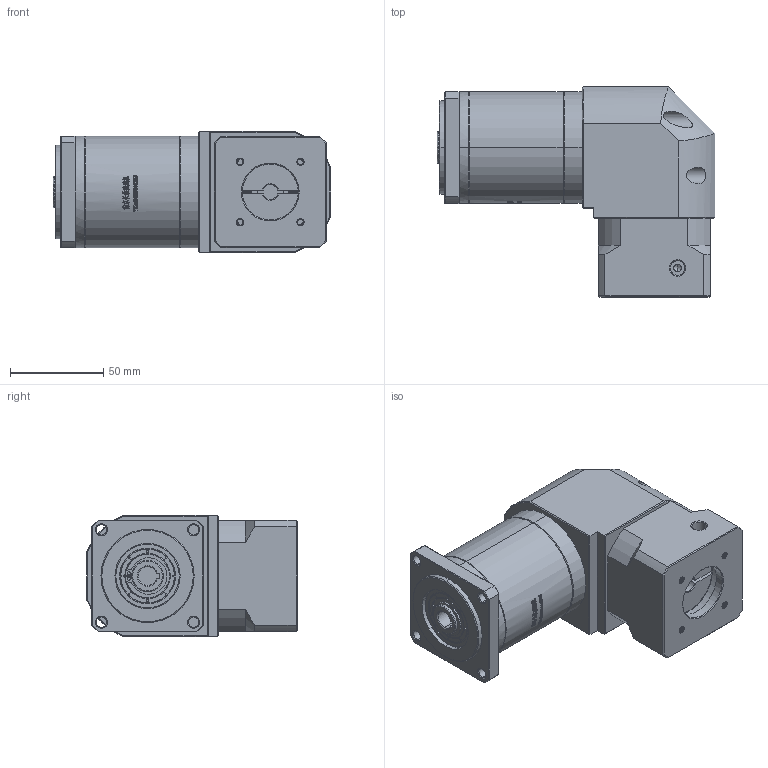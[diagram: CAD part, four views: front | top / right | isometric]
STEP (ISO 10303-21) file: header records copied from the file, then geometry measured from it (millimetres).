
FILE_DESCRIPTION (( 'STEP AP214' ), '1' );
FILE_NAME ('ZFR60-K10-L2-8-30-46-M4.STEP', '2022-04-20T08:08:09', ( '' ), ( 'Microsoft' ), 'SwSTEP 2.0', 'SolidWorks 2016', '' );
FILE_SCHEMA (( 'AUTOMOTIVE_DESIGN' ));
Length unit declared in the file: millimetre
Products named in the file (1): ZFR60-K10-L2-8-30-46-M4
Bounding box: 149 x 112.7 x 65 mm (x, y, z)
Volume: 586897.6 mm3; surface area: 82656.8 mm2
Topology: 5 solids, 6 shells, 2671 faces, 7308 edges, 4778 vertices
Faces by surface type: plane 1388, bspline 636, cylinder 343, cone 280, torus 24
Entity records: 164168 total; most frequent: CARTESIAN_POINT 72859, ORIENTED_EDGE 14592, DIRECTION 10299, EDGE_CURVE 7296, VERTEX_POINT 4778, VECTOR 4317, LINE 4317, AXIS2_PLACEMENT_3D 2991
